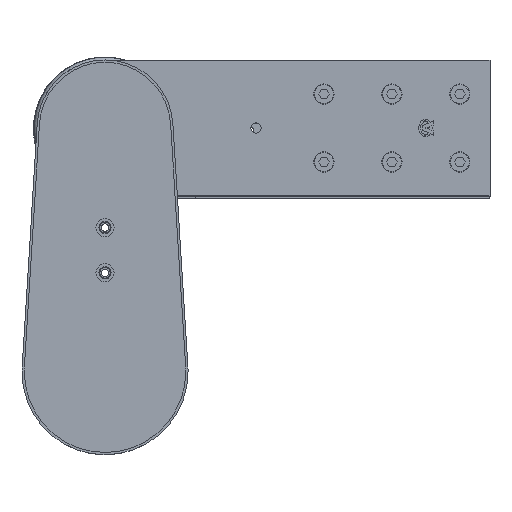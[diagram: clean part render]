
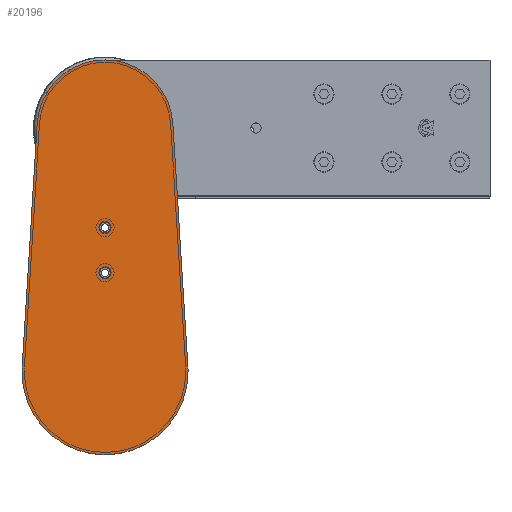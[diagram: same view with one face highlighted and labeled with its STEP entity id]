
A CAD part, top view. The second image highlights one B-rep face of the part: STEP entity #20196.
In plain terms, the highlighted planar face has unit normal (0, 0, 1) as drawn and (0, 0, -1) by its records, which use the part's own axes.
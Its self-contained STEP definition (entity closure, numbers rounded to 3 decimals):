
#97 = DIRECTION ( 'NONE',  ( 1., 0., 0. ) ) ;
#788 = DIRECTION ( 'NONE',  ( 1., 0., 0. ) ) ;
#902 = DIRECTION ( 'NONE',  ( 1., 0., 0. ) ) ;
#981 = AXIS2_PLACEMENT_3D ( 'NONE', #31207, #11649, #18317 ) ;
#1118 = CIRCLE ( 'NONE', #33350, 3.5 ) ;
#1393 = LINE ( 'NONE', #31050, #9054 ) ;
#1475 = ORIENTED_EDGE ( 'NONE', *, *, #22195, .F. ) ;
#2005 = CARTESIAN_POINT ( 'NONE',  ( -55., 0., 0. ) ) ;
#2627 = CARTESIAN_POINT ( 'NONE',  ( 44.914, 164.286, 0. ) ) ;
#3499 = CIRCLE ( 'NONE', #19120, 55. ) ;
#4623 = ORIENTED_EDGE ( 'NONE', *, *, #29438, .F. ) ;
#7277 = VERTEX_POINT ( 'NONE', #27163 ) ;
#9054 = VECTOR ( 'NONE', #40844, 1000. ) ;
#9505 = ORIENTED_EDGE ( 'NONE', *, *, #9718, .F. ) ;
#9519 = DIRECTION ( 'NONE',  ( 0., 0., -1. ) ) ;
#9664 = VERTEX_POINT ( 'NONE', #31069 ) ;
#9718 = EDGE_CURVE ( 'NONE', #27943, #33898, #21738, .T. ) ;
#9748 = EDGE_CURVE ( 'NONE', #9664, #32766, #11528, .T. ) ;
#9989 = VERTEX_POINT ( 'NONE', #30083 ) ;
#10102 = CARTESIAN_POINT ( 'NONE',  ( 0., 0., 0. ) ) ;
#10640 = CARTESIAN_POINT ( 'NONE',  ( 0., 95.5, 0. ) ) ;
#11528 = CIRCLE ( 'NONE', #27216, 55. ) ;
#11649 = DIRECTION ( 'NONE',  ( 0., 0., 1. ) ) ;
#12207 = CARTESIAN_POINT ( 'NONE',  ( 0., 0., 0. ) ) ;
#12419 = CIRCLE ( 'NONE', #20127, 45. ) ;
#12846 = PLANE ( 'NONE',  #14148 ) ;
#13066 = VECTOR ( 'NONE', #14686, 1000. ) ;
#13243 = VERTEX_POINT ( 'NONE', #18138 ) ;
#13813 = DIRECTION ( 'NONE',  ( 1., 0., 0. ) ) ;
#14105 = VERTEX_POINT ( 'NONE', #2627 ) ;
#14148 = AXIS2_PLACEMENT_3D ( 'NONE', #18960, #19393, #28969 ) ;
#14226 = CARTESIAN_POINT ( 'NONE',  ( 0., 65.5, 0. ) ) ;
#14302 = VERTEX_POINT ( 'NONE', #32121 ) ;
#14559 = LINE ( 'NONE', #37724, #13066 ) ;
#14602 = CIRCLE ( 'NONE', #16870, 3.5 ) ;
#14686 = DIRECTION ( 'NONE',  ( -0.062, 0.998, 0. ) ) ;
#16842 = ORIENTED_EDGE ( 'NONE', *, *, #9748, .F. ) ;
#16870 = AXIS2_PLACEMENT_3D ( 'NONE', #23138, #36476, #902 ) ;
#17052 = FACE_BOUND ( 'NONE', #23652, .T. ) ;
#17613 = EDGE_LOOP ( 'NONE', ( #36577, #36258, #16842, #41627, #9505, #38281 ) ) ;
#17686 = EDGE_LOOP ( 'NONE', ( #21151, #1475 ) ) ;
#17777 = CARTESIAN_POINT ( 'NONE',  ( -54.894, 3.406, 0. ) ) ;
#18062 = FACE_BOUND ( 'NONE', #17686, .T. ) ;
#18138 = CARTESIAN_POINT ( 'NONE',  ( 3.5, 95.5, 0. ) ) ;
#18317 = DIRECTION ( 'NONE',  ( 1., 0., 0. ) ) ;
#18453 = EDGE_CURVE ( 'NONE', #9989, #27943, #1393, .T. ) ;
#18955 = AXIS2_PLACEMENT_3D ( 'NONE', #29661, #9519, #26218 ) ;
#18960 = CARTESIAN_POINT ( 'NONE',  ( 0., 161.5, 0. ) ) ;
#19120 = AXIS2_PLACEMENT_3D ( 'NONE', #10102, #32963, #36267 ) ;
#19393 = DIRECTION ( 'NONE',  ( 0., 0., 1. ) ) ;
#20127 = AXIS2_PLACEMENT_3D ( 'NONE', #38718, #35548, #97 ) ;
#20196 = ADVANCED_FACE ( 'NONE', ( #18062, #17052, #21144 ), #12846, .F. ) ;
#20494 = ORIENTED_EDGE ( 'NONE', *, *, #30352, .F. ) ;
#20601 = DIRECTION ( 'NONE',  ( 0., 0., -1. ) ) ;
#21144 = FACE_OUTER_BOUND ( 'NONE', #17613, .T. ) ;
#21151 = ORIENTED_EDGE ( 'NONE', *, *, #36587, .F. ) ;
#21738 = CIRCLE ( 'NONE', #981, 55. ) ;
#22195 = EDGE_CURVE ( 'NONE', #14302, #13243, #39978, .T. ) ;
#23138 = CARTESIAN_POINT ( 'NONE',  ( 0., 65.5, 0. ) ) ;
#23652 = EDGE_LOOP ( 'NONE', ( #4623, #20494 ) ) ;
#24299 = CARTESIAN_POINT ( 'NONE',  ( 3.5, 65.5, 0. ) ) ;
#24341 = CIRCLE ( 'NONE', #24505, 3.5 ) ;
#24505 = AXIS2_PLACEMENT_3D ( 'NONE', #14226, #27218, #13813 ) ;
#25176 = DIRECTION ( 'NONE',  ( 1., 0., 0. ) ) ;
#26218 = DIRECTION ( 'NONE',  ( 1., 0., 0. ) ) ;
#27163 = CARTESIAN_POINT ( 'NONE',  ( -3.5, 65.5, 0. ) ) ;
#27216 = AXIS2_PLACEMENT_3D ( 'NONE', #12207, #35070, #25176 ) ;
#27218 = DIRECTION ( 'NONE',  ( 0., 0., -1. ) ) ;
#27943 = VERTEX_POINT ( 'NONE', #17777 ) ;
#28288 = CARTESIAN_POINT ( 'NONE',  ( 54.894, 3.406, 0. ) ) ;
#28969 = DIRECTION ( 'NONE',  ( 1., 0., 0. ) ) ;
#29438 = EDGE_CURVE ( 'NONE', #38100, #7277, #24341, .T. ) ;
#29661 = CARTESIAN_POINT ( 'NONE',  ( 0., 95.5, 0. ) ) ;
#30083 = CARTESIAN_POINT ( 'NONE',  ( -44.914, 164.286, 0. ) ) ;
#30352 = EDGE_CURVE ( 'NONE', #7277, #38100, #14602, .T. ) ;
#31050 = CARTESIAN_POINT ( 'NONE',  ( -44.914, 164.286, 0. ) ) ;
#31069 = CARTESIAN_POINT ( 'NONE',  ( 55., 0., 0. ) ) ;
#31207 = CARTESIAN_POINT ( 'NONE',  ( 0., 0., 0. ) ) ;
#31890 = EDGE_CURVE ( 'NONE', #33898, #9664, #3499, .T. ) ;
#32121 = CARTESIAN_POINT ( 'NONE',  ( -3.5, 95.5, 0. ) ) ;
#32766 = VERTEX_POINT ( 'NONE', #28288 ) ;
#32963 = DIRECTION ( 'NONE',  ( 0., 0., 1. ) ) ;
#33277 = EDGE_CURVE ( 'NONE', #32766, #14105, #14559, .T. ) ;
#33350 = AXIS2_PLACEMENT_3D ( 'NONE', #10640, #20601, #788 ) ;
#33898 = VERTEX_POINT ( 'NONE', #2005 ) ;
#35070 = DIRECTION ( 'NONE',  ( 0., 0., 1. ) ) ;
#35548 = DIRECTION ( 'NONE',  ( 0., 0., 1. ) ) ;
#36258 = ORIENTED_EDGE ( 'NONE', *, *, #33277, .F. ) ;
#36267 = DIRECTION ( 'NONE',  ( 1., 0., 0. ) ) ;
#36476 = DIRECTION ( 'NONE',  ( 0., 0., -1. ) ) ;
#36577 = ORIENTED_EDGE ( 'NONE', *, *, #41939, .F. ) ;
#36587 = EDGE_CURVE ( 'NONE', #13243, #14302, #1118, .T. ) ;
#37724 = CARTESIAN_POINT ( 'NONE',  ( 44.914, 164.286, 0. ) ) ;
#38100 = VERTEX_POINT ( 'NONE', #24299 ) ;
#38281 = ORIENTED_EDGE ( 'NONE', *, *, #18453, .F. ) ;
#38718 = CARTESIAN_POINT ( 'NONE',  ( 0., 161.5, 0. ) ) ;
#39978 = CIRCLE ( 'NONE', #18955, 3.5 ) ;
#40844 = DIRECTION ( 'NONE',  ( -0.062, -0.998, 0. ) ) ;
#41627 = ORIENTED_EDGE ( 'NONE', *, *, #31890, .F. ) ;
#41939 = EDGE_CURVE ( 'NONE', #14105, #9989, #12419, .T. ) ;
